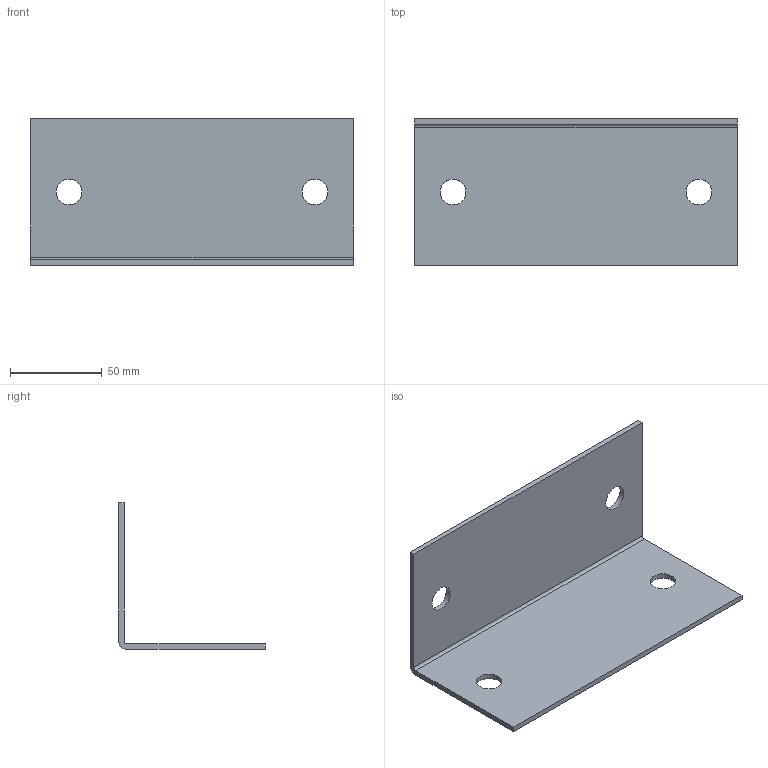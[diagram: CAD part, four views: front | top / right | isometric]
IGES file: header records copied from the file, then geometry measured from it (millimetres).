
Start section:             Generated by a .NET application based on Eyeshot              from devDept Software S.r.l. (www.devdept.com)
Global section: file name: K:\SB_Bloecke\Wandriegelanschluss_L808030\export\DSTV\NC\Files\V180_1.iges; preprocessor: Eyeshot 2024.2.342; author: GRAITEC PowerPack for Autodesk Advance Steel; date: 20241030.150106; units: millimetre
Bounding box: 176 x 80 x 80 mm (x, y, z)
Volume: 80368.4 mm3; surface area: 56097 mm2
Topology: 1 solids, 1 shells, 14 faces, 36 edges, 24 vertices
Faces by surface type: plane 8, cylinder 6
Full cylindrical faces by diameter (mm): 14.002 x4
